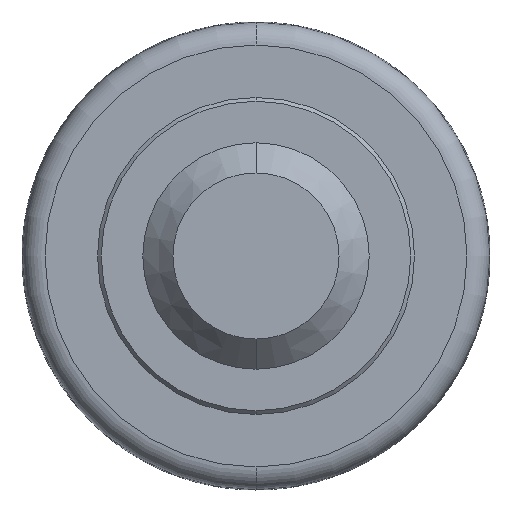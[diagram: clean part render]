
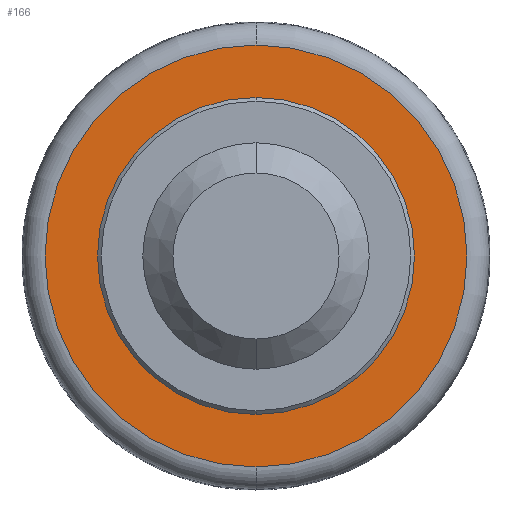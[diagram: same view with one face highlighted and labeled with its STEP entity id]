
A CAD part, left-side view. The second image highlights one B-rep face of the part: STEP entity #166.
In plain terms, the highlighted planar face has unit normal (-1, 0, 0).
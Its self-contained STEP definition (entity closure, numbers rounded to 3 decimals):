
#4 = VERTEX_POINT ( 'NONE', #26 ) ;
#26 = CARTESIAN_POINT ( 'NONE',  ( -2.25, 0., -20.7 ) ) ;
#34 = PLANE ( 'NONE',  #724 ) ;
#36 = AXIS2_PLACEMENT_3D ( 'NONE', #41, #313, #750 ) ;
#41 = CARTESIAN_POINT ( 'NONE',  ( -2.25, 0., 0. ) ) ;
#55 = EDGE_LOOP ( 'NONE', ( #732, #225 ) ) ;
#63 = VERTEX_POINT ( 'NONE', #602 ) ;
#81 = DIRECTION ( 'NONE',  ( -1., 0., 0. ) ) ;
#166 = ADVANCED_FACE ( 'NONE', ( #436, #535 ), #34, .T. ) ;
#177 = CARTESIAN_POINT ( 'NONE',  ( -2.25, 20.7, 0. ) ) ;
#197 = CIRCLE ( 'NONE', #581, 27.951 ) ;
#199 = DIRECTION ( 'NONE',  ( 0., 0., 1. ) ) ;
#225 = ORIENTED_EDGE ( 'NONE', *, *, #716, .F. ) ;
#264 = DIRECTION ( 'NONE',  ( 0., 0., 1. ) ) ;
#265 = EDGE_CURVE ( 'NONE', #4, #548, #629, .T. ) ;
#294 = CIRCLE ( 'NONE', #350, 20.7 ) ;
#313 = DIRECTION ( 'NONE',  ( -1., 0., 0. ) ) ;
#333 = AXIS2_PLACEMENT_3D ( 'NONE', #630, #632, #264 ) ;
#338 = EDGE_CURVE ( 'NONE', #63, #722, #425, .T. ) ;
#350 = AXIS2_PLACEMENT_3D ( 'NONE', #432, #429, #199 ) ;
#382 = ORIENTED_EDGE ( 'NONE', *, *, #396, .T. ) ;
#384 = CARTESIAN_POINT ( 'NONE',  ( -2.25, 0., 0. ) ) ;
#386 = CARTESIAN_POINT ( 'NONE',  ( -2.25, 0., -27.951 ) ) ;
#396 = EDGE_CURVE ( 'NONE', #722, #63, #197, .T. ) ;
#425 = CIRCLE ( 'NONE', #333, 27.951 ) ;
#429 = DIRECTION ( 'NONE',  ( -1., 0., 0. ) ) ;
#432 = CARTESIAN_POINT ( 'NONE',  ( -2.25, 0., 0. ) ) ;
#436 = FACE_OUTER_BOUND ( 'NONE', #443, .T. ) ;
#443 = EDGE_LOOP ( 'NONE', ( #647, #382 ) ) ;
#484 = CARTESIAN_POINT ( 'NONE',  ( -2.25, 0., 20.7 ) ) ;
#501 = DIRECTION ( 'NONE',  ( 0., 0., 1. ) ) ;
#535 = FACE_BOUND ( 'NONE', #55, .T. ) ;
#548 = VERTEX_POINT ( 'NONE', #484 ) ;
#577 = DIRECTION ( 'NONE',  ( 0., 0., 1. ) ) ;
#581 = AXIS2_PLACEMENT_3D ( 'NONE', #384, #81, #501 ) ;
#602 = CARTESIAN_POINT ( 'NONE',  ( -2.25, 0., 27.951 ) ) ;
#629 = CIRCLE ( 'NONE', #36, 20.7 ) ;
#630 = CARTESIAN_POINT ( 'NONE',  ( -2.25, 0., 0. ) ) ;
#632 = DIRECTION ( 'NONE',  ( -1., 0., 0. ) ) ;
#647 = ORIENTED_EDGE ( 'NONE', *, *, #338, .T. ) ;
#656 = DIRECTION ( 'NONE',  ( -1., 0., 0. ) ) ;
#716 = EDGE_CURVE ( 'NONE', #548, #4, #294, .T. ) ;
#722 = VERTEX_POINT ( 'NONE', #386 ) ;
#724 = AXIS2_PLACEMENT_3D ( 'NONE', #177, #656, #577 ) ;
#732 = ORIENTED_EDGE ( 'NONE', *, *, #265, .F. ) ;
#750 = DIRECTION ( 'NONE',  ( 0., 0., 1. ) ) ;
